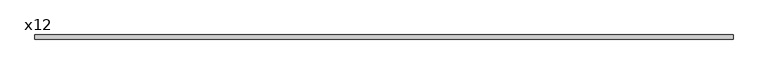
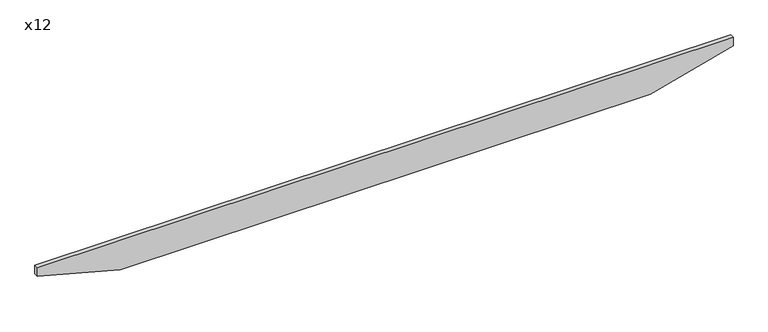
"""IFC4 building model written with IfcOpenShell, lengths in millimetres: beam geometry, Notched Beam : x12."""

from ifc_helpers import new_model, si_unit, frame, origin, place, context, project, spatial, polyline, outline, extrude, source, transform, mapped, element, save


def x12_0e3b684a(model_context):
    return source(origin(), model_context, "Body", "SweptSolid", [
        extrude(outline(polyline([(142.875, -3200.4), (60.325, -3200.4), (-142.875, -2438.4), (-142.875, 2438.4), (60.325, 3200.4), (142.875, 3200.4), (142.875, -3200.4)])), frame((0.0, -19.05, 0.0), z_axis=(0.0, 1.0, 0.0), x_axis=(0.0, 0.0, 1.0)), (0.0, 0.0, 1.0), 38.1),
    ])


if __name__ == "__main__":
    model = new_model("IFC4")
    model_context = context("Model", 3, world=origin())
    ifc_project = project(units=[si_unit("LENGTHUNIT", "METRE", prefix="MILLI")], contexts=[model_context])
    site = spatial("IfcSite", under=ifc_project)
    building = spatial("IfcBuilding", under=site)
    placement = place(None, origin())
    x12_shape = x12_0e3b684a(model_context)
    element("IfcBeam", 1, ObjectType="Notched Beam : x12", at=placement, inside=building, context=model_context, shape_type="MappedRepresentation", body=[
        mapped(x12_shape, transform((0.0, 0.0, 0.0), x_axis=(1.0, 0.0, 0.0), y_axis=(0.0, 1.0, 0.0), z_axis=(0.0, 0.0, 1.0))),
    ])
    save(model, "model.ifc")
